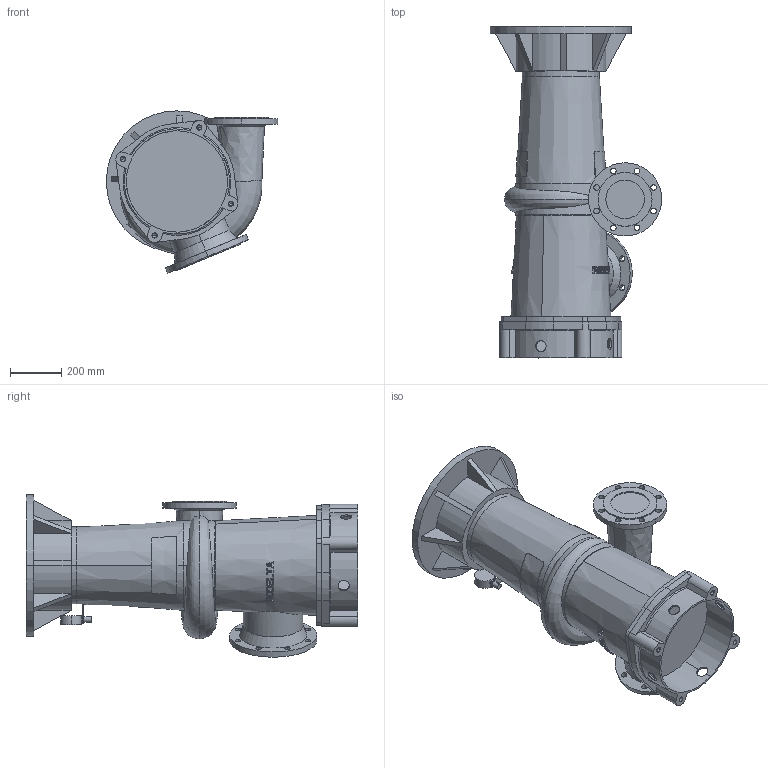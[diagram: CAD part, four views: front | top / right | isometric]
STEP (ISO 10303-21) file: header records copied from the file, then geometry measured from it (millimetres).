
FILE_DESCRIPTION((''),'2;1');
FILE_NAME('7410_VOOR_BLAD_ASM','2024-07-24T',('Lyritlocal'),(''),'PRO/ENGINEER BY PARAMETRIC TECHNOLOGY CORPORATION, 2016360','PRO/ENGINEER BY PARAMETRIC TECHNOLOGY CORPORATION, 2016360','');
FILE_SCHEMA(('CONFIG_CONTROL_DESIGN'));
Length unit declared in the file: millimetre
Products named in the file (3): 7410; 7410_VOET; 7410_VOOR_BLAD_ASM
Assembly tree (2 placements, depth 2):
  7410_VOOR_BLAD_ASM
    7410
    7410_VOET
Bounding box: 667.5 x 1292 x 632 mm (x, y, z)
Volume: 142858668 mm3; surface area: 3346063.5 mm2
Topology: 2 solids, 6 shells, 554 faces, 1491 edges, 983 vertices
Faces by surface type: plane 368, cylinder 138, cone 38, bspline 6, torus 4
Entity records: 19705 total; most frequent: CARTESIAN_POINT 6220, ORIENTED_EDGE 2950, DIRECTION 2529, EDGE_CURVE 1483, VERTEX_POINT 983, AXIS2_PLACEMENT_3D 961, EDGE_LOOP 646, VECTOR 607
